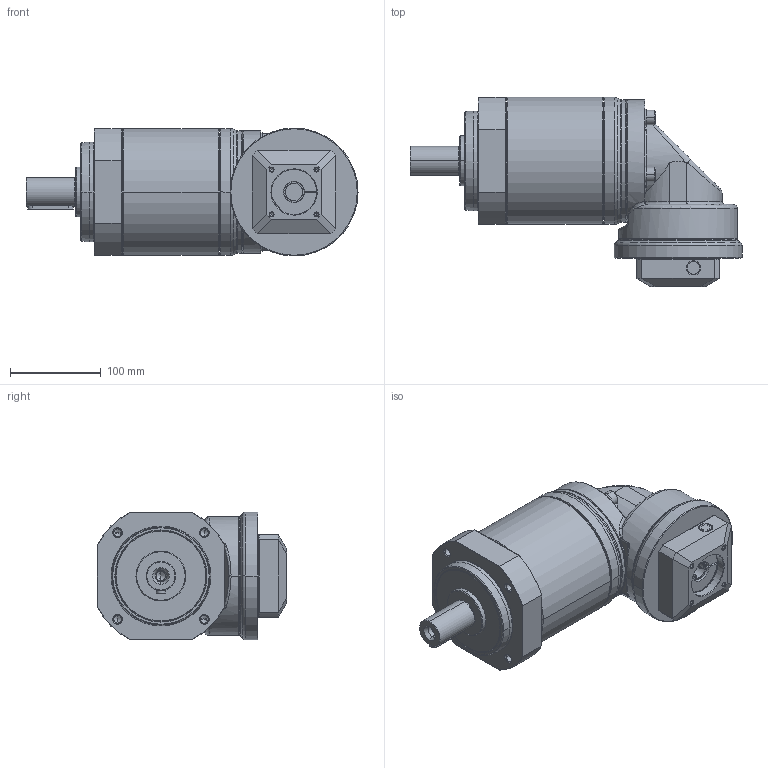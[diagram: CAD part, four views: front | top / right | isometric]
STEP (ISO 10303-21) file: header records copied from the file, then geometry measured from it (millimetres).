
FILE_DESCRIPTION((''),'2;1');
FILE_NAME('PS2R-E_2ST_19-P0411400101_ASM','2016-06-01T',('d01943'),(''),'PRO/ENGINEER BY PARAMETRIC TECHNOLOGY CORPORATION, 2008410','PRO/ENGINEER BY PARAMETRIC TECHNOLOGY CORPORATION, 2008410','');
FILE_SCHEMA(('CONFIG_CONTROL_DESIGN'));
Length unit declared in the file: millimetre
Products named in the file (12): P1328510001; P0251500001; P0350501401; P1349500001; P1017500001; P0713500001; P0503400008; P1350500001; P0411400101; P1702500001; 2111BA10040; PS2R-E_2ST_19-P0411400101_ASM
Assembly tree (14 placements, depth 2):
  PS2R-E_2ST_19-P0411400101_ASM
    P1328510001
    P0251500001
    P0350501401
    P1349500001
    P1017500001
    P0713500001
    P0503400008
    P1350500001
    P0411400101
    P1702500001
    2111BA10040  x4
Bounding box: 366 x 208.5 x 141 mm (x, y, z)
Volume: 2648262.1 mm3; surface area: 461968.1 mm2
Topology: 14 solids, 14 shells, 728 faces, 1604 edges, 923 vertices
Faces by surface type: cylinder 216, cone 212, plane 166, torus 100, bspline 34
Entity records: 23197 total; most frequent: CARTESIAN_POINT 9181, DIRECTION 3090, ORIENTED_EDGE 2720, EDGE_CURVE 1360, AXIS2_PLACEMENT_3D 1299, VERTEX_POINT 803, EDGE_LOOP 705, CIRCLE 678
